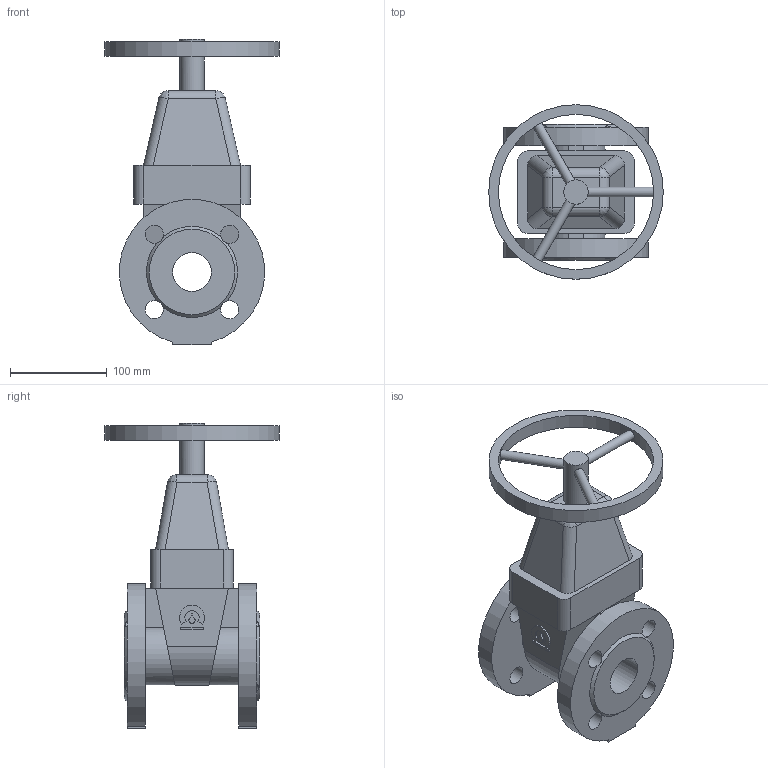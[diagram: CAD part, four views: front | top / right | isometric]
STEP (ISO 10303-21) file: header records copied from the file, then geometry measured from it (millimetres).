
FILE_DESCRIPTION(('STEP AP203'), '1');
FILE_NAME('Çàäâèæêà 47GV DN40 PN10_PN16_L140_W180 ñ ìàõîâèêîì', '', ('UNSPECIFIED'), ('UNSPECIFIED'), 'ASCON STEP Converter 1.6', 'ASCON Math Kernel', '');
FILE_SCHEMA(('CONFIG_CONTROL_DESIGN'));
Length unit declared in the file: millimetre
Bounding box: 180 x 180 x 315 mm (x, y, z)
Volume: 2088381.7 mm3; surface area: 220668.5 mm2
Topology: 1 solids, 1 shells, 96 faces, 259 edges, 164 vertices
Faces by surface type: plane 50, cylinder 40, bspline 4, cone 2
Full cylindrical faces by diameter (mm): 10 x3, 19 x8, 25 x1, 40 x1, 160 x1, 180 x1
Entity records: 5374 total; most frequent: CARTESIAN_POINT 2199, DIRECTION 482, ORIENTED_EDGE 476, EDGE_CURVE 238, AXIS2_PLACEMENT_3D 177, VERTEX_POINT 164, EDGE_LOOP 140, LINE 128
